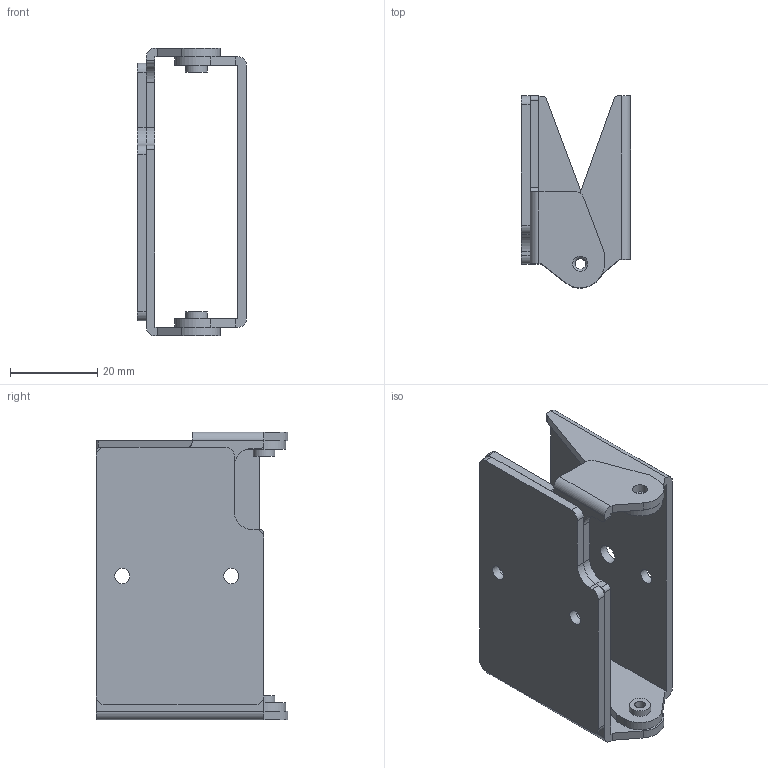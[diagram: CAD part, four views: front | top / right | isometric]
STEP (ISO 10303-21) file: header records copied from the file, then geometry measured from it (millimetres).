
FILE_DESCRIPTION(/* description */ ('STEP AP242','CAx-IF Rec.Pracs.---Representation and Presentation of Product Manufacturing Information (PMI)---4.0---2014-10-13','CAx-IF Rec.Pracs.---3D Tessellated Geometry---0.4---2014-09-14','2;1'),/* implementation_level */ '2;1');
FILE_NAME(/* name */ '649359382601101c0447045a',/* time_stamp */ '2023-06-21T20:10:32Z',/* author */ (''),/* organization */ (''),/* preprocessor_version */ 'ST-DEVELOPER v19.4',/* originating_system */ ' ',/* authorisation */ ' ');
FILE_SCHEMA (('AP242_MANAGED_MODEL_BASED_3D_ENGINEERING_MIM_LF { 1 0 10303 442 1 1 4 }'));
Length unit declared in the file: metre
Products named in the file (4): Assembly 1; UNDER_PLATE; TOP_PLATE; spacer
Assembly tree (3 placements, depth 2):
  Assembly 1
    UNDER_PLATE
    TOP_PLATE
    spacer
Bounding box: 25 x 44 x 66 mm (x, y, z)
Volume: 16119 mm3; surface area: 17785.2 mm2
Topology: 3 solids, 3 shells, 83 faces, 228 edges, 153 vertices
Faces by surface type: plane 44, cylinder 37, torus 2
Full cylindrical faces by diameter (mm): 2.459 x2, 3.5 x8, 4.5 x1, 5 x2
Entity records: 2679 total; most frequent: DIRECTION 458, CARTESIAN_POINT 443, ORIENTED_EDGE 416, EDGE_CURVE 208, AXIS2_PLACEMENT_3D 163, VERTEX_POINT 148, LINE 132, VECTOR 132
